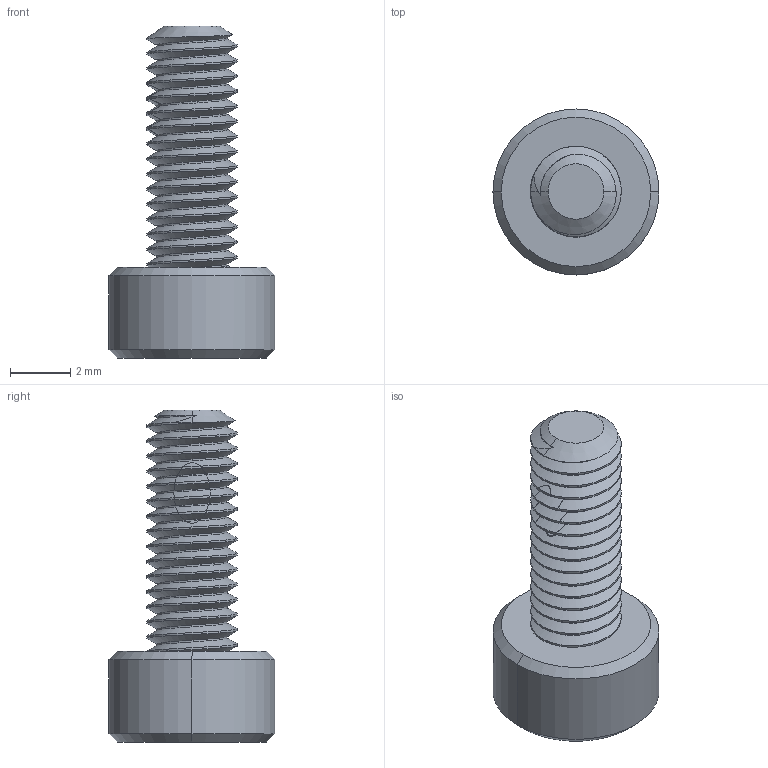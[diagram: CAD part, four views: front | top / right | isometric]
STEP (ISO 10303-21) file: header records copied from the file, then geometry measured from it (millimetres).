
FILE_DESCRIPTION (( 'STEP AP214' ), '1' );
FILE_NAME ('SHCS M3 x 8mm with patch am-1500.STEP', '2023-07-26T20:10:34', ( '' ), ( '' ), 'SwSTEP 2.0', 'SolidWorks 2022', '' );
FILE_SCHEMA (( 'AUTOMOTIVE_DESIGN' ));
Length unit declared in the file: millimetre
Products named in the file (1): SHCS M3 x 8mm with patch am-1500
Bounding box: 5.5 x 5.5 x 11 mm (x, y, z)
Volume: 104.6 mm3; surface area: 223.4 mm2
Topology: 1 solids, 1 shells, 120 faces, 330 edges, 214 vertices
Faces by surface type: cylinder 76, bspline 20, cone 14, plane 10
Entity records: 9094 total; most frequent: CARTESIAN_POINT 6639, ORIENTED_EDGE 660, EDGE_CURVE 330, DIRECTION 328, VERTEX_POINT 214, AXIS2_PLACEMENT_3D 124, EDGE_LOOP 122, ADVANCED_FACE 120
